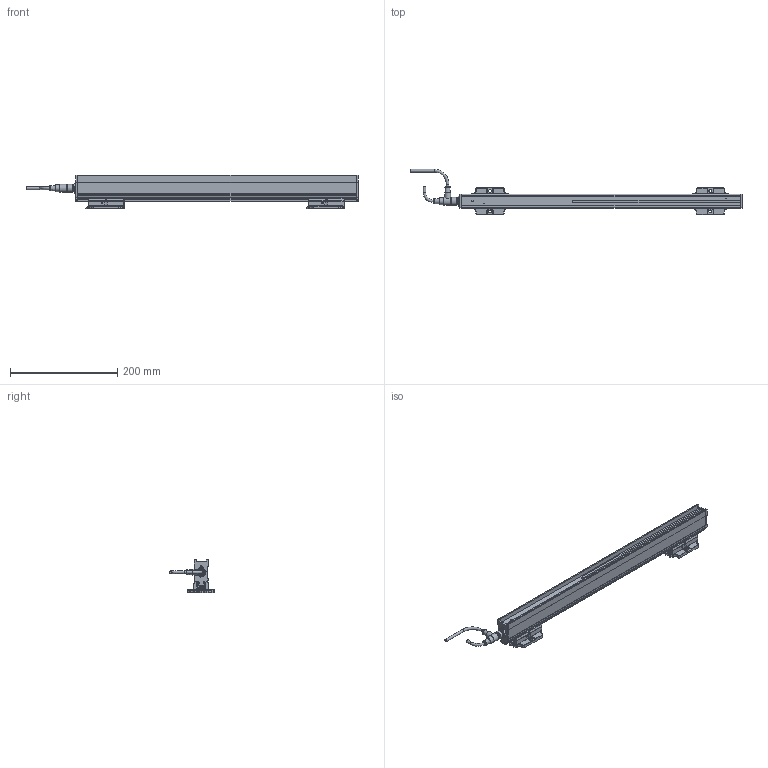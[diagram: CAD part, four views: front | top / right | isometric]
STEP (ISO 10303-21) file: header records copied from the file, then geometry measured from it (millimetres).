
FILE_DESCRIPTION(('Bauteilbeschreibung','HiCAD-Model','HiCAD-STEP-TRANSLATION','Bauteilbeschreibung'),'2;1');
FILE_NAME('PERFORMAXIQEASY_450-540_3D.STP','2014-03-05T11:19:57+00:00',('Konstrukteur'),('Konstrukteur Firma GmbH'),' HiCAD 2011, Step 1600.0 ','HiCAD 2011','confidential');
FILE_SCHEMA(('AUTOMOTIVE_DESIGN { 1 2 10303 214 0 1 1 1 }'));
Products named in the file (38): PERFORMAXIQEASY_450_540_3D; A_PERFORMAX IQ EASY 450_540; A_PERFORMAX IQ EASY SPEED; A_CAP DE; A_CAP CE_5; GROUP; PIN; GROUP0; PIN0; LED_2C_3MM; LED02C03MM; A519020315_CONNECTOR APPLIANCE; A_INSERT; A_CONTACTS; A_HOUSING; A_PROFILE; A_POTTING; A532000100_BRACKET BARS_ MOUNT; A_SIDE PIECE; A0SIDE0PIECE; A_BRACKET SMALL; A_SLIDE PIECE; A5320001000BRACKET0BARS00MOUNT; A0SIDE0PIECE0; A0SIDE0PIECE1; A0BRACKET0SMALL; A0SLIDE0PIECE; A_CONNECTOR STRAIGHT; EXTRUDED SOLID_0; DRAAD GEBOGEN; REVOLVED SOLID_1; REVOLVED SOLID_3; A_CONNECTOR ANGLED; REVOLVED0SOLID01; EXTRUDED0SOLID00; C_EDGE SWEEP_0; REVOLVED SOLID_2; REVOLVED0SOLID03
Assembly tree (37 placements, depth 5):
  PERFORMAXIQEASY_450_540_3D
    A_PERFORMAX IQ EASY 450_540
      A_PERFORMAX IQ EASY SPEED
        A_CAP DE
        A_CAP CE_5
        GROUP
          PIN
        GROUP0
          PIN0
        LED_2C_3MM
        LED02C03MM
        A519020315_CONNECTOR APPLIANCE
          A_INSERT
          A_CONTACTS
          A_HOUSING
        A_PROFILE
        A_POTTING
      A532000100_BRACKET BARS_ MOUNT
        A_SIDE PIECE
        A0SIDE0PIECE
        A_BRACKET SMALL
        A_SLIDE PIECE
      A5320001000BRACKET0BARS00MOUNT
        A0SIDE0PIECE0
        A0SIDE0PIECE1
        A0BRACKET0SMALL
        A0SLIDE0PIECE
      A_CONNECTOR STRAIGHT
        EXTRUDED SOLID_0
        DRAAD GEBOGEN
        REVOLVED SOLID_1
        REVOLVED SOLID_3
      A_CONNECTOR ANGLED
        REVOLVED0SOLID01
        EXTRUDED0SOLID00
        C_EDGE SWEEP_0
        REVOLVED SOLID_2
        REVOLVED0SOLID03
Bounding box: 617.89 x 84.28 x 63.13 mm (x, y, z)
Volume: 584828.2 mm3; surface area: 171587.9 mm2
Topology: 33 solids, 33 shells, 1911 faces, 4879 edges, 2932 vertices
Faces by surface type: cylinder 777, plane 751, sphere 112, torus 111, bspline 88, cone 72
Full cylindrical faces by diameter (mm): 0.8 x10, 1 x5, 2.387 x4, 3 x11, 3.1 x1, 4.2 x2, 5 x4, 5.5 x10, 8 x2, 8.2 x1, 8.4 x2, 8.945 x1, 9 x2, 10.2 x1, 10.5 x3, 11 x1, 12 x3, 12.8 x1, 13.8 x4, 14.5 x3
Entity records: 87383 total; most frequent: CARTESIAN_POINT 19760, DIRECTION 9521, ORIENTED_EDGE 9176, EDGE_CURVE 4588, COLOUR_RGB 4377, PRESENTATION_STYLE_ASSIGNMENT 4377, OVER_RIDING_STYLED_ITEM 4349, CURVE_STYLE 4344
